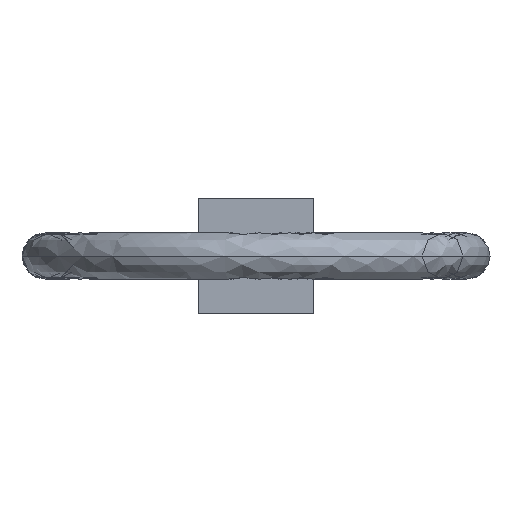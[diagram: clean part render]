
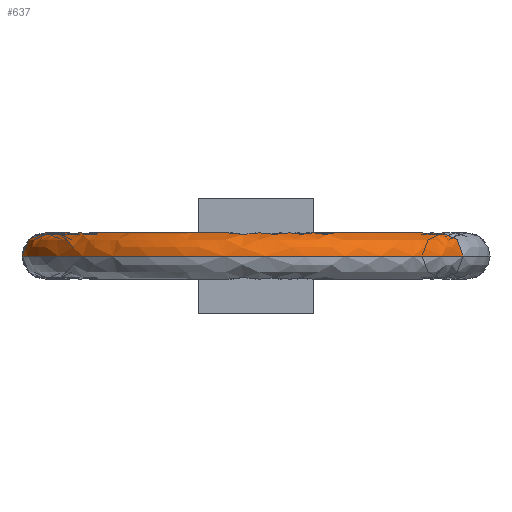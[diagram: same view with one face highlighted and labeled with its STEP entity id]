
A CAD part, left-side view. The second image highlights one B-rep face of the part: STEP entity #637.
In plain terms, the highlighted free-form (B-spline) face has degree [3, 3] with [7, 4] control points.
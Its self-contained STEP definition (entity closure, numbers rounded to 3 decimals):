
#14 = ORIENTED_EDGE ( 'NONE', *, *, #1306, .T. ) ;
#44 = VERTEX_POINT ( 'NONE', #1073 ) ;
#57 = EDGE_CURVE ( 'NONE', #107, #44, #1178, .T. ) ;
#80 = ORIENTED_EDGE ( 'NONE', *, *, #57, .T. ) ;
#107 = VERTEX_POINT ( 'NONE', #1009 ) ;
#121 = EDGE_CURVE ( 'NONE', #484, #107, #1102, .T. ) ;
#145 = ORIENTED_EDGE ( 'NONE', *, *, #121, .T. ) ;
#162 = VERTEX_POINT ( 'NONE', #721 ) ;
#179 = ORIENTED_EDGE ( 'NONE', *, *, #569, .F. ) ;
#357 = CARTESIAN_POINT ( 'NONE',  ( -297.296, -4.478, 0. ) ) ;
#413 = EDGE_LOOP ( 'NONE', ( #179, #145, #80, #14 ) ) ;
#435 =( BOUNDED_CURVE ( )  B_SPLINE_CURVE ( 3, ( #436, #437, #438, #439, #440, #441, #442 ),
 .UNSPECIFIED., .F., .T. ) 
 B_SPLINE_CURVE_WITH_KNOTS ( ( 4, 3, 4 ),
 ( 0.021, 0.5, 0.979 ),
 .UNSPECIFIED. ) 
 CURVE ( )  GEOMETRIC_REPRESENTATION_ITEM ( )  RATIONAL_B_SPLINE_CURVE ( ( 0.974, 0.79, 0.799, 1., 0.799, 0.79, 0.974 ) ) 
 REPRESENTATION_ITEM ( '' )  );
#436 = CARTESIAN_POINT ( 'NONE',  ( -297.296, -4.478, 0. ) ) ;
#437 = CARTESIAN_POINT ( 'NONE',  ( -297.296, -4.478, 0.294 ) ) ;
#438 = CARTESIAN_POINT ( 'NONE',  ( -297.198, -4.294, 0.5 ) ) ;
#439 = CARTESIAN_POINT ( 'NONE',  ( -297.063, -4.036, 0.5 ) ) ;
#440 = CARTESIAN_POINT ( 'NONE',  ( -296.927, -3.778, 0.5 ) ) ;
#441 = CARTESIAN_POINT ( 'NONE',  ( -296.83, -3.593, 0.294 ) ) ;
#442 = CARTESIAN_POINT ( 'NONE',  ( -296.83, -3.593, 0. ) ) ;
#484 = VERTEX_POINT ( 'NONE', #357 ) ;
#501 = FACE_OUTER_BOUND ( 'NONE', #413, .T. ) ;
#502 =( BOUNDED_SURFACE ( )  B_SPLINE_SURFACE ( 3, 3, ( 
 ( #503, #504, #505, #506 ),
 ( #507, #508, #509, #510 ),
 ( #511, #512, #513, #514 ),
 ( #515, #516, #517, #519 ),
 ( #520, #521, #522, #523 ),
 ( #524, #525, #526, #527 ),
 ( #528, #529, #530, #531 ) ),
 .UNSPECIFIED., .F., .F., .T. ) 
 B_SPLINE_SURFACE_WITH_KNOTS ( ( 4, 3, 4 ),
 ( 4, 4 ),
 ( 0.021, 0.5, 0.979 ),
 ( 0., 1. ),
 .UNSPECIFIED. ) 
 GEOMETRIC_REPRESENTATION_ITEM ( )  RATIONAL_B_SPLINE_SURFACE ( (
 ( 0.974, 0.325, 0.325, 0.974),
 ( 0.79, 0.263, 0.263, 0.79),
 ( 0.799, 0.266, 0.266, 0.799),
 ( 1., 0.333, 0.333, 1.),
 ( 0.799, 0.266, 0.266, 0.799),
 ( 0.79, 0.263, 0.263, 0.79),
 ( 0.974, 0.325, 0.325, 0.974) ) ) 
 REPRESENTATION_ITEM ( '' )  SURFACE ( )  );
#503 = CARTESIAN_POINT ( 'NONE',  ( -292.584, 4.478, 0. ) ) ;
#504 = CARTESIAN_POINT ( 'NONE',  ( -301.541, 9.189, 0. ) ) ;
#505 = CARTESIAN_POINT ( 'NONE',  ( -306.252, 0.233, 0. ) ) ;
#506 = CARTESIAN_POINT ( 'NONE',  ( -297.296, -4.478, 0. ) ) ;
#507 = CARTESIAN_POINT ( 'NONE',  ( -292.584, 4.478, 0.294 ) ) ;
#508 = CARTESIAN_POINT ( 'NONE',  ( -301.541, 9.189, 0.294 ) ) ;
#509 = CARTESIAN_POINT ( 'NONE',  ( -306.252, 0.233, 0.294 ) ) ;
#510 = CARTESIAN_POINT ( 'NONE',  ( -297.296, -4.478, 0.294 ) ) ;
#511 = CARTESIAN_POINT ( 'NONE',  ( -292.682, 4.294, 0.5 ) ) ;
#512 = CARTESIAN_POINT ( 'NONE',  ( -301.269, 8.81, 0.5 ) ) ;
#513 = CARTESIAN_POINT ( 'NONE',  ( -305.786, 0.223, 0.5 ) ) ;
#514 = CARTESIAN_POINT ( 'NONE',  ( -297.198, -4.294, 0.5 ) ) ;
#515 = CARTESIAN_POINT ( 'NONE',  ( -292.817, 4.036, 0.5 ) ) ;
#516 = CARTESIAN_POINT ( 'NONE',  ( -300.889, 8.281, 0.5 ) ) ;
#517 = CARTESIAN_POINT ( 'NONE',  ( -305.134, 0.21, 0.5 ) ) ;
#519 = CARTESIAN_POINT ( 'NONE',  ( -297.063, -4.036, 0.5 ) ) ;
#520 = CARTESIAN_POINT ( 'NONE',  ( -292.953, 3.778, 0.5 ) ) ;
#521 = CARTESIAN_POINT ( 'NONE',  ( -300.509, 7.752, 0.5 ) ) ;
#522 = CARTESIAN_POINT ( 'NONE',  ( -304.483, 0.196, 0.5 ) ) ;
#523 = CARTESIAN_POINT ( 'NONE',  ( -296.927, -3.778, 0.5 ) ) ;
#524 = CARTESIAN_POINT ( 'NONE',  ( -293.05, 3.593, 0.294 ) ) ;
#525 = CARTESIAN_POINT ( 'NONE',  ( -300.236, 7.373, 0.294 ) ) ;
#526 = CARTESIAN_POINT ( 'NONE',  ( -304.017, 0.187, 0.294 ) ) ;
#527 = CARTESIAN_POINT ( 'NONE',  ( -296.83, -3.593, 0.294 ) ) ;
#528 = CARTESIAN_POINT ( 'NONE',  ( -293.05, 3.593, 0. ) ) ;
#529 = CARTESIAN_POINT ( 'NONE',  ( -300.236, 7.373, 0. ) ) ;
#530 = CARTESIAN_POINT ( 'NONE',  ( -304.017, 0.187, 0. ) ) ;
#531 = CARTESIAN_POINT ( 'NONE',  ( -296.83, -3.593, 0. ) ) ;
#569 = EDGE_CURVE ( 'NONE', #484, #162, #435, .T. ) ;
#637 = ADVANCED_FACE ( 'NONE', ( #501 ), #502, .T. ) ;
#721 = CARTESIAN_POINT ( 'NONE',  ( -296.83, -3.593, 0. ) ) ;
#836 = CIRCLE ( 'NONE', #837, 4.06 ) ;
#837 = AXIS2_PLACEMENT_3D ( 'NONE', #838, #839, #840 ) ;
#838 = CARTESIAN_POINT ( 'NONE',  ( -294.94, 0., 0. ) ) ;
#839 = DIRECTION ( 'NONE',  ( 0., 0., 1. ) ) ;
#840 = DIRECTION ( 'NONE',  ( -0.466, -0.885, 0. ) ) ;
#1009 = CARTESIAN_POINT ( 'NONE',  ( -292.584, 4.478, 0. ) ) ;
#1073 = CARTESIAN_POINT ( 'NONE',  ( -293.05, 3.593, 0. ) ) ;
#1102 = CIRCLE ( 'NONE', #1103, 5.06 ) ;
#1103 = AXIS2_PLACEMENT_3D ( 'NONE', #1104, #1105, #1106 ) ;
#1104 = CARTESIAN_POINT ( 'NONE',  ( -294.94, 0., 0. ) ) ;
#1105 = DIRECTION ( 'NONE',  ( 0., 0., -1. ) ) ;
#1106 = DIRECTION ( 'NONE',  ( -0.466, -0.885, 0. ) ) ;
#1178 = CIRCLE ( 'NONE', #1179, 0.5 ) ;
#1179 = AXIS2_PLACEMENT_3D ( 'NONE', #1180, #1181, #1182 ) ;
#1180 = CARTESIAN_POINT ( 'NONE',  ( -292.817, 4.036, 0. ) ) ;
#1181 = DIRECTION ( 'NONE',  ( 0.885, -0.466, 0. ) ) ;
#1182 = DIRECTION ( 'NONE',  ( 0.466, 0.885, 0. ) ) ;
#1306 = EDGE_CURVE ( 'NONE', #44, #162, #836, .T. ) ;
